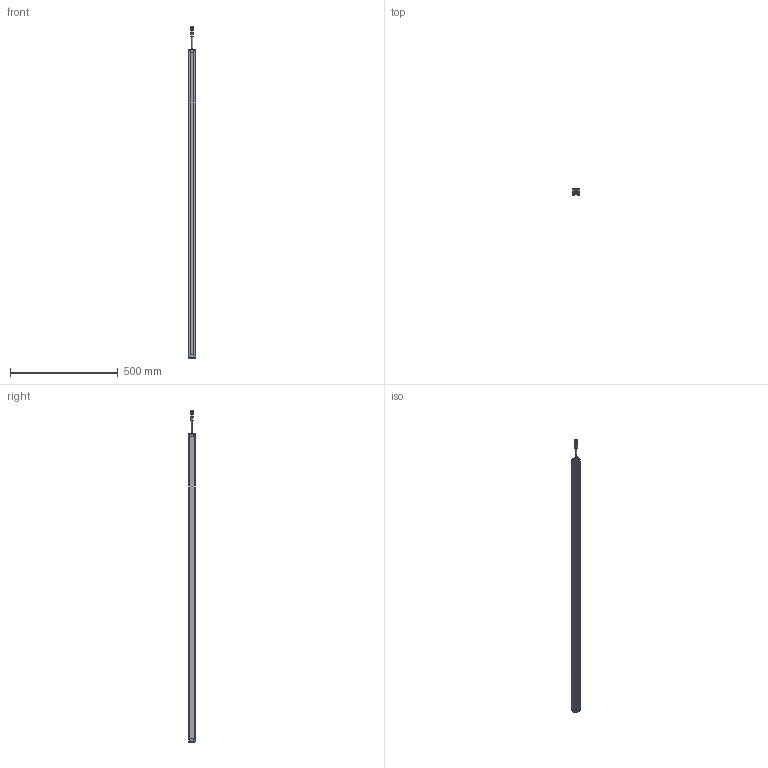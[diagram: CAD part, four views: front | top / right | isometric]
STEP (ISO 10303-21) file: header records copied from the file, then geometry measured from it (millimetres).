
FILE_DESCRIPTION((''),'2;1');
FILE_NAME('SMT1-CGQ_ASM','2025-08-08T08:46:27',('Administrator'),(''),'CREO PARAMETRIC BY PTC INC, 2016510','CREO PARAMETRIC BY PTC INC, 2016510','');
FILE_SCHEMA(('CONFIG_CONTROL_DESIGN'));
Length unit declared in the file: millimetre
Products named in the file (7): SMT1-XINGCAI-V1; SMT1-SDG-V1; SMT1-XDG-V1; M12-CHATOU; ST3X18; CT4-LVGUANGBAN; SMT1-CGQ_ASM
Assembly tree (13 placements, depth 2):
  SMT1-CGQ_ASM
    SMT1-XINGCAI-V1
    SMT1-SDG-V1
    SMT1-XDG-V1
    M12-CHATOU
    ST3X18  x8
    CT4-LVGUANGBAN
Bounding box: 33 x 28.02 x 1539.5 mm (x, y, z)
Volume: 1105701.9 mm3; surface area: 354082.7 mm2
Topology: 13 solids, 13 shells, 712 faces, 1868 edges, 1200 vertices
Faces by surface type: plane 382, cylinder 184, extrusion 86, sphere 32, cone 20, bspline 8
Entity records: 18128 total; most frequent: CARTESIAN_POINT 4347, ORIENTED_EDGE 2916, DIRECTION 2580, EDGE_CURVE 1458, VECTOR 1036, VERTEX_POINT 955, LINE 950, AXIS2_PLACEMENT_3D 772
